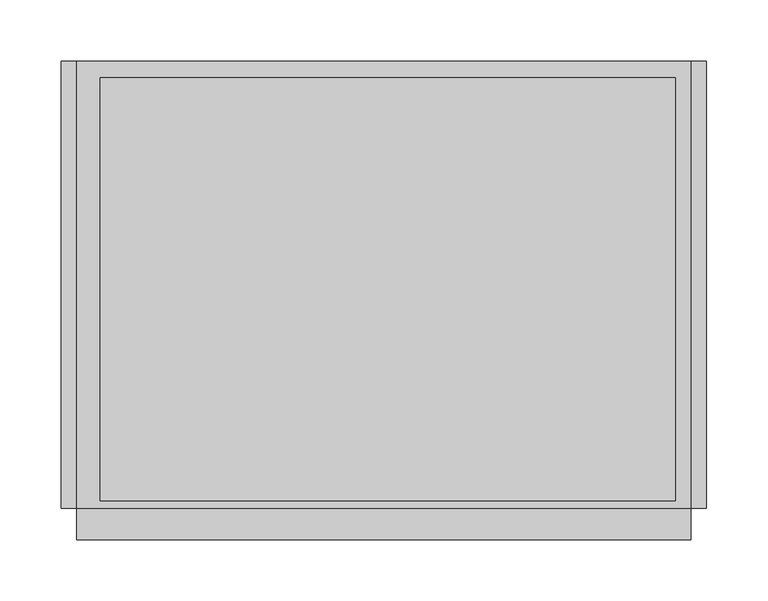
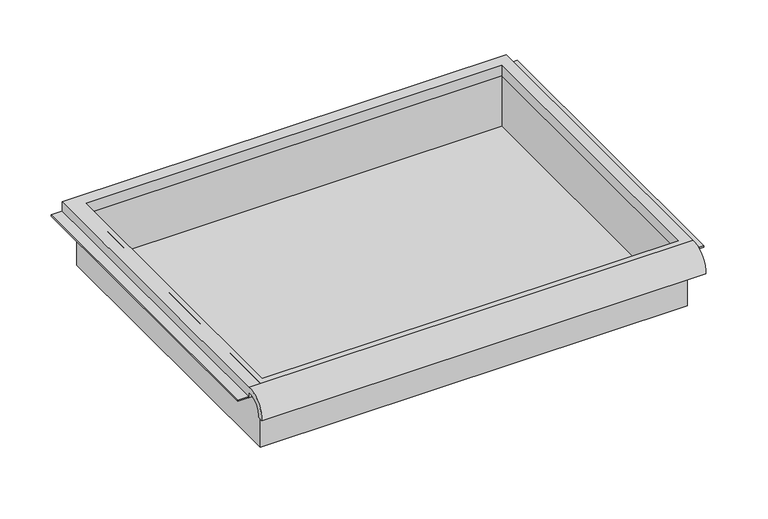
"""IFC4 building model written with IfcOpenShell, lengths in millimetres: furniture geometry."""

import ifcopenshell
import ifcopenshell.guid

model = None  # the IFC model being written
_history = None  # IfcOwnerHistory: only IFC2X3 demands one
_inside = {}  # id of a spatial element -> (the spatial element, [elements in it])
_under = {}  # id of a project, library or spatial element -> (it, [spatial elements below it])
_declared = {}  # id of a project -> (the project, [libraries it declares])
_typed = {}  # id of a type object -> (the type object, [elements of that type])
_made_of = {}  # id of a material, layer set ... -> (it, [elements and type objects made of it])


def new_model(schema):
    """Start an empty IFC model of exactly this schema.

    Asked for "IFC4X3", IfcOpenShell would pick the latest addendum, in which some entities
    have other attributes; the version numbers below select the first issue.
    IFC2X3 requires an IfcOwnerHistory on every rooted entity: one is made here for all.
    """
    global model, _history
    if schema == "IFC4X3":
        model = ifcopenshell.file(schema_version=(4, 3, 0, 0))
    else:
        model = ifcopenshell.file(schema=schema)
    _inside.clear()
    _under.clear()
    _declared.clear()
    _typed.clear()
    _made_of.clear()
    _history = None
    if model.schema == "IFC2X3":
        org = make("IfcOrganization", Name="unknown")
        user = make(
            "IfcPersonAndOrganization",
            ThePerson=make("IfcPerson", FamilyName="unknown"),
            TheOrganization=org,
        )
        app = make(
            "IfcApplication",
            ApplicationDeveloper=org,
            Version="unknown",
            ApplicationFullName="unknown",
            ApplicationIdentifier="unknown",
        )
        _history = make(
            "IfcOwnerHistory",
            OwningUser=user,
            OwningApplication=app,
            ChangeAction="ADDED",
            CreationDate=0,
        )
    return model


def make(cls, **values):
    """One entity of the class cls with the attributes given. An attribute that is None is left unset."""
    return model.create_entity(
        cls, **{name: value for name, value in values.items() if value is not None}
    )


def rooted(cls, **values):
    """An entity with a GlobalId (a new one), such as an element, a storey or a relation."""
    return make(cls, GlobalId=ifcopenshell.guid.new(), OwnerHistory=_history, **values)


def si_unit(unit_type, name, prefix=None):
    """IfcSIUnit, for example si_unit("LENGTHUNIT", "METRE", prefix="MILLI")."""
    return make("IfcSIUnit", UnitType=unit_type, Prefix=prefix, Name=name)


def assignment(units):
    """IfcUnitAssignment: the units of a project."""
    return None if units is None else make("IfcUnitAssignment", Units=units)


def point(xyz):
    """IfcCartesianPoint."""
    return None if xyz is None else make("IfcCartesianPoint", Coordinates=xyz)


def direction(xyz):
    """IfcDirection."""
    return None if xyz is None else make("IfcDirection", DirectionRatios=xyz)


def frame(location, z_axis=None, x_axis=None):
    """IfcAxis2Placement3D, a coordinate frame: its origin and axes. An axis left out is left unset."""
    return make(
        "IfcAxis2Placement3D",
        Location=point(location),
        Axis=direction(z_axis),
        RefDirection=direction(x_axis),
    )


def origin():
    """The frame at (0, 0, 0) with its axes left unset."""
    return frame((0.0, 0.0, 0.0))


def place(relative_to, where):
    """IfcLocalPlacement: puts the frame where relative to a parent placement (None: the world)."""
    return make(
        "IfcLocalPlacement", PlacementRelTo=relative_to, RelativePlacement=where
    )


def context(
    kind, dimensions, precision=None, world=None, true_north=None, identifier=None
):
    """IfcGeometricRepresentationContext, for example the 3D "Model" context."""
    return make(
        "IfcGeometricRepresentationContext",
        ContextIdentifier=identifier,
        ContextType=kind,
        CoordinateSpaceDimension=dimensions,
        Precision=precision,
        WorldCoordinateSystem=world,
        TrueNorth=true_north,
    )


def project(units=None, contexts=None):
    """IfcProject with its units and contexts."""
    return rooted(
        "IfcProject",
        Name="project",
        RepresentationContexts=contexts,
        UnitsInContext=assignment(units),
    )


def spatial(cls, under=None, at=None, **own):
    """A site, building, storey or space (cls), placed at a placement, below another one or the project."""
    s = rooted(cls, ObjectPlacement=at, **own)
    if under is not None:
        _under.setdefault(under.id(), (under, []))[1].append(s)
    return s


def polyline(points):
    """IfcPolyline through the points."""
    return make("IfcPolyline", Points=[point(p) for p in points])


def circle_curve(where, radius):
    """IfcCircle in the frame where."""
    return make("IfcCircle", Position=where, Radius=radius)


def faces_of(points, faces, orient=None, outer=None):
    """IfcFace entities. A face is a list of loops; a loop is a list of indices into points, from 0.

    orient and outer hold one flag for each loop. By default every Orientation is true, the
    first loop of a face is its IfcFaceOuterBound and the others are IfcFaceBound.
    """
    made = []
    for i, loops in enumerate(faces):
        bounds = []
        for j, loop in enumerate(loops):
            is_outer = j == 0 if outer is None else outer[i][j]
            bounds.append(
                make(
                    "IfcFaceOuterBound" if is_outer else "IfcFaceBound",
                    Bound=make("IfcPolyLoop", Polygon=[points[k] for k in loop]),
                    Orientation=True if orient is None else orient[i][j],
                )
            )
        made.append(make("IfcFace", Bounds=bounds))
    return made


def faceted_brep(points, faces, orient=None, outer=None, voids=None):
    """IfcFacetedBrep: a solid bounded by flat faces; with voids (closed shells), ...WithVoids."""
    shared = [point(p) for p in points]
    hull = make("IfcClosedShell", CfsFaces=faces_of(shared, faces, orient, outer))
    if voids is None:
        return make("IfcFacetedBrep", Outer=hull)
    return make(
        "IfcFacetedBrepWithVoids",
        Outer=hull,
        Voids=[
            make(cls, CfsFaces=faces_of(shared, fs, o, b)) for cls, fs, o, b in voids
        ],
    )


def shape(context_of_items, identifier, shape_type, items):
    """IfcShapeRepresentation: the items that make up one representation, for example the "Body"."""
    return make(
        "IfcShapeRepresentation",
        ContextOfItems=context_of_items,
        RepresentationIdentifier=identifier,
        RepresentationType=shape_type,
        Items=items,
    )


def source(mapping_origin, context_of_items, identifier, shape_type, items):
    """IfcRepresentationMap: a shape defined once, which mapped items show again and again."""
    return make(
        "IfcRepresentationMap",
        MappingOrigin=mapping_origin,
        MappedRepresentation=shape(context_of_items, identifier, shape_type, items),
    )


def transform(
    local_origin,
    x_axis=None,
    y_axis=None,
    z_axis=None,
    scale=None,
    scale2=None,
    scale3=None,
    uniform=True,
):
    """IfcCartesianTransformationOperator3D, or its non-uniform kind. x_axis, y_axis, z_axis: its Axis1, 2, 3."""
    if uniform:
        return make(
            "IfcCartesianTransformationOperator3D",
            Axis1=direction(x_axis),
            Axis2=direction(y_axis),
            LocalOrigin=point(local_origin),
            Scale=scale,
            Axis3=direction(z_axis),
        )
    return make(
        "IfcCartesianTransformationOperator3DnonUniform",
        Axis1=direction(x_axis),
        Axis2=direction(y_axis),
        LocalOrigin=point(local_origin),
        Scale=scale,
        Axis3=direction(z_axis),
        Scale2=scale2,
        Scale3=scale3,
    )


def mapped(mapping_source, mapping_target):
    """IfcMappedItem: shows the shape of a source again, moved by a transform."""
    return make(
        "IfcMappedItem", MappingSource=mapping_source, MappingTarget=mapping_target
    )


def made_of(thing, what):
    """Note that an element or type object is made of a material, layer set ...; save() writes the relation."""
    if what is not None:
        _made_of.setdefault(what.id(), (what, []))[1].append(thing)
    return thing


def element(
    cls,
    number,
    at=None,
    inside=None,
    cuts=None,
    type_object=None,
    material=None,
    context=None,
    identifier="Body",
    shape_type=None,
    held_by="IfcProductDefinitionShape",
    body=None,
    shapes=None,
    **own,
):
    """One element of the class cls, such as IfcWall. Its Tag is "e" and its number.

    at: its placement. inside: the storey or other place that contains it. cuts: it is an
    opening in that element (IfcRelVoidsElement). A single representation is given by context,
    identifier, shape_type and body (its items); several are given by shapes. held_by: the class
    of the entity that holds the representations. save() writes the other relations.
    """
    e = rooted(cls, Tag="e%d" % number, ObjectPlacement=at, **own)
    if body is not None:
        shapes = [shape(context, identifier, shape_type, body)]
    if shapes is not None:
        e.Representation = make(held_by, Representations=shapes)
    if inside is not None:
        _inside.setdefault(inside.id(), (inside, []))[1].append(e)
    if cuts is not None:
        rooted(
            "IfcRelVoidsElement", RelatingBuildingElement=cuts, RelatedOpeningElement=e
        )
    if type_object is not None:
        _typed.setdefault(type_object.id(), (type_object, []))[1].append(e)
    return made_of(e, material)


def aggregate(whole, parts):
    """IfcRelAggregates: a whole, such as a stair, and the parts it consists of."""
    return rooted("IfcRelAggregates", RelatingObject=whole, RelatedObjects=parts)


def save(model, path):
    """Write the relations noted so far, then the file.

    IfcRelAggregates (storeys below a building ...), IfcRelContainedInSpatialStructure (elements
    in a storey), IfcRelDefinesByType, IfcRelAssociatesMaterial and IfcRelDeclares: one each for
    every whole, place, type object, material and project.
    """
    for whole, parts in _under.values():
        aggregate(whole, parts)
    for where, things in _inside.values():
        rooted(
            "IfcRelContainedInSpatialStructure",
            RelatedElements=things,
            RelatingStructure=where,
        )
    for kind, things in _typed.values():
        rooted("IfcRelDefinesByType", RelatedObjects=things, RelatingType=kind)
    for what, things in _made_of.values():
        rooted("IfcRelAssociatesMaterial", RelatedObjects=things, RelatingMaterial=what)
    for by, libraries in _declared.values():
        rooted("IfcRelDeclares", RelatingContext=by, RelatedDefinitions=libraries)
    model.write(path)


def plane_surface(at):
    """IfcPlane: the flat surface through the origin of the frame at, square to its z axis."""
    return make("IfcPlane", Position=at)


def cylinder_surface(at, radius):
    """IfcCylindricalSurface: all points at the distance radius from the z axis of the frame at."""
    return make("IfcCylindricalSurface", Position=at, Radius=radius)


def revolved_surface(curve, axis_point, axis_direction):
    """IfcSurfaceOfRevolution: the curve turned about the line through axis_point along axis_direction."""
    return make(
        "IfcSurfaceOfRevolution",
        SweptCurve=make("IfcArbitraryOpenProfileDef", ProfileType="CURVE", Curve=curve),
        AxisPosition=make("IfcAxis1Placement", Location=point(axis_point), Axis=direction(axis_direction)),
    )


def advanced_brep(points, edges, surfaces, faces):
    """IfcAdvancedBrep: a solid bounded by faces that lie on surfaces and meet in shared edges.

    An edge is (start, end): straight between two places in points (the first is 0);
    or (start, end, curve); or (start, end, curve, False) where it runs against its curve.
    A face is (place in surfaces, loops), or (place, loops, False) where it looks against
    its surface's normal. A loop lists edges by number (the first is 1), with a minus sign
    where the edge is run from its end to its start. The first loop is the outer one.
    """
    corners = [point(p) for p in points]
    vertices = [make("IfcVertexPoint", VertexGeometry=c) for c in corners]
    made = []
    for start, end, *more in edges:
        made.append(
            make(
                "IfcEdgeCurve",
                EdgeStart=vertices[start],
                EdgeEnd=vertices[end],
                EdgeGeometry=more[0] if more else make("IfcPolyline", Points=[corners[start], corners[end]]),
                SameSense=more[1] if len(more) > 1 else True,
            )
        )
    hull = []
    for where, loops, *sense in faces:
        bounds = []
        for j, loop in enumerate(loops):
            ring = [make("IfcOrientedEdge", EdgeElement=made[abs(k) - 1], Orientation=k > 0) for k in loop]
            bounds.append(
                make(
                    "IfcFaceOuterBound" if j == 0 else "IfcFaceBound",
                    Bound=make("IfcEdgeLoop", EdgeList=ring),
                    Orientation=True,
                )
            )
        hull.append(make("IfcAdvancedFace", Bounds=bounds, FaceSurface=surfaces[where], SameSense=sense[0] if sense else True))
    return make("IfcAdvancedBrep", Outer=make("IfcClosedShell", CfsFaces=hull))


def furniture_09c434e6(model_context):
    return source(origin(), model_context, "Body", "SolidModel", [
        advanced_brep(
        [(263.7474999, -195.297482, 1770.8510272), (263.7474999, -188.9125, 1770.8510272), (263.7474999, -169.8625, 1789.1125004), (263.7474999, -169.8625, 1782.7625), (263.7474999, 195.2625, 1782.7625), (263.7474999, 195.2625, 1795.4625004), (263.7474999, -169.8625, 1795.4625004), (-237.9025001, -195.297482, 1770.8510272), (-237.9025001, -169.8625, 1795.4625004), (-237.9025001, 195.2625, 1795.4625004), (-237.9025001, 195.2625, 1782.7625), (-237.9025001, -169.8625, 1782.7625), (-237.9025001, -169.8625, 1789.1125004), (-237.9025001, -188.9125, 1770.8510272), (251.0474878, 181.9275, 1782.7625), (-218.8095642, 181.9275, 1782.7625), (-218.8095642, -163.5125, 1782.7625), (251.0474878, -163.5125, 1782.7625), (-218.8095642, 181.9275, 1795.4625004), (251.0474878, 181.9275, 1795.4625004), (251.0474878, -163.5125, 1795.4625004), (-218.8095642, -163.5125, 1795.4625004)],
        [
            (0, 1),
            (1, 2, circle_curve(frame((263.7474999, -172.3404634, 1772.6304376), z_axis=(-1.0, 0.0, 0.0), x_axis=(0.0, 1.0, 0.0)), 16.6672942)),
            (2, 3),
            (3, 4),
            (4, 5),
            (5, 6),
            (6, 0, circle_curve(frame((263.7474999, -172.4601678, 1772.6983276), z_axis=(1.0, 0.0, 0.0), x_axis=(0.0, 1.0, 0.0)), 22.9119061)),
            (7, 8, circle_curve(frame((-237.9025001, -172.4601678, 1772.6983276), z_axis=(-1.0, 0.0, 0.0), x_axis=(0.0, 1.0, 0.0)), 22.9119061)),
            (8, 9),
            (9, 10),
            (10, 11),
            (11, 12),
            (12, 13, circle_curve(frame((-237.9025001, -172.3404634, 1772.6304376), z_axis=(1.0, 0.0, 0.0), x_axis=(0.0, 1.0, 0.0)), 16.6672942)),
            (13, 7),
            (0, 7),
            (13, 1),
            (12, 2),
            (11, 3),
            (10, 4),
            (14, 15),
            (15, 16),
            (16, 17),
            (17, 14),
            (9, 5),
            (8, 6),
            (18, 19),
            (19, 20),
            (20, 21),
            (21, 18),
            (14, 19),
            (18, 15),
            (21, 16),
            (20, 17),
        ],
        [
            plane_surface(frame((263.7474999, -195.297482, 1770.8510272), z_axis=(1.0, 0.0, 0.0), x_axis=(0.0, 1.0, 0.0))),
            plane_surface(frame((-237.9025001, -195.297482, 1770.8510272), z_axis=(-1.0, 0.0, 0.0), x_axis=(0.0, -1.0, 0.0))),
            plane_surface(frame((263.7474999, -195.297482, 1770.8510272), z_axis=(0.0, 0.0, -1.0), x_axis=(-1.0, 0.0, 0.0))),
            revolved_surface(polyline([(-237.9025001, -155.67316920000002, 1772.6304376), (263.7474999, -155.67316920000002, 1772.6304376)]), (-237.9025001, -172.3404634, 1772.6304376), (-1.0, 0.0, 0.0)),
            plane_surface(frame((263.7474999, -169.8625, 1789.1125004), z_axis=(0.0, -1.0, 0.0), x_axis=(-1.0, 0.0, 0.0))),
            plane_surface(frame((263.7474999, -169.8625, 1782.7625), z_axis=(0.0, 0.0, -1.0), x_axis=(-1.0, 0.0, 0.0))),
            plane_surface(frame((263.7474999, 195.2625, 1782.7625), z_axis=(0.0, 1.0, 0.0), x_axis=(-1.0, 0.0, 0.0))),
            plane_surface(frame((263.7474999, 195.2625, 1795.4625004), z_axis=(0.0, 0.0, 1.0), x_axis=(-1.0, 0.0, 0.0))),
            cylinder_surface(frame((-237.9025001, -172.4601678, 1772.6983276), z_axis=(1.0, 0.0, 0.0), x_axis=(0.0, 1.0, 0.0)), 22.9119061),
            plane_surface(frame((251.0474878, 181.9275, 1795.4625004), z_axis=(0.0, -1.0, 0.0), x_axis=(0.0, 0.0, -1.0))),
            plane_surface(frame((-218.8095642, 181.9275, 1795.4625004), z_axis=(1.0, 0.0, 0.0), x_axis=(0.0, 0.0, -1.0))),
            plane_surface(frame((-218.8095642, -163.5125, 1795.4625004), z_axis=(0.0, 1.0, 0.0), x_axis=(0.0, 0.0, -1.0))),
            plane_surface(frame((251.0474878, -163.5125, 1795.4625004), z_axis=(-1.0, 0.0, 0.0), x_axis=(0.0, 0.0, -1.0))),
        ],
        [
            (0, [[1, 2, 3, 4, 5, 6, 7]]),
            (1, [[8, 9, 10, 11, 12, 13, 14]]),
            (2, [[-1, 15, -14, 16]]),
            (3, [[-2, -16, -13, 17]]),
            (4, [[-3, -17, -12, 18]]),
            (5, [[-4, -18, -11, 19], [20, 21, 22, 23]]),
            (6, [[-5, -19, -10, 24]]),
            (7, [[-6, -24, -9, 25], [26, 27, 28, 29]]),
            (8, [[-7, -25, -8, -15]]),
            (9, [[30, -26, 31, -20]]),
            (10, [[-31, -29, 32, -21]]),
            (11, [[-32, -28, 33, -22]]),
            (12, [[-30, -23, -33, -27]]),
        ],
    ),
        faceted_brep([(-225.2025001, -169.8625, 1719.2625004), (257.3974878, -169.8625, 1719.2625004), (257.3974878, -169.8625, 1795.4625004), (-225.2025001, -169.8625, 1795.4625004), (-225.2025001, 188.9125, 1719.2625004), (-225.2025001, 188.9125, 1795.4625004), (257.3974878, 188.9125, 1795.4625004), (257.3974878, 188.9125, 1719.2625004), (-218.8095642, 181.9275, 1795.4625004), (251.0474878, 181.9275, 1795.4625004), (251.0474878, -163.5125, 1795.4625004), (-218.8095642, -163.5125, 1795.4625004), (251.0474878, 181.9275, 1722.4375004), (-218.8095642, 181.9275, 1722.4375004), (-218.8095642, -163.5125, 1722.4375004), (251.0474878, -163.5125, 1722.4375004)], [[[0, 1, 2, 3]], [[4, 5, 6, 7]], [[1, 0, 4, 7]], [[2, 1, 7, 6]], [[3, 2, 6, 5], [8, 9, 10, 11]], [[0, 3, 5, 4]], [[12, 13, 14, 15]], [[13, 12, 9, 8]], [[14, 13, 8, 11]], [[15, 14, 11, 10]], [[12, 15, 10, 9]]]),
        faceted_brep([(-250.6025001, 195.2625, 1782.7625), (-250.6025001, 195.2625, 1784.35), (-231.5525001, 195.2625, 1784.35), (-231.5525001, 195.2625, 1782.7625), (-250.6025001, -169.8625, 1782.7625), (-231.5525001, -169.8625, 1782.7625), (-231.5525001, -169.8625, 1784.35), (-250.6025001, -169.8625, 1784.35)], [[[0, 1, 2, 3]], [[4, 5, 6, 7]], [[1, 0, 4, 7]], [[2, 1, 7, 6]], [[3, 2, 6, 5]], [[0, 3, 5, 4]]]),
        faceted_brep([(276.4474999, 195.2625, 1782.7625), (263.7474999, 195.2625, 1782.7625), (263.7474999, 195.2625, 1784.35), (276.4474999, 195.2625, 1784.35), (276.4474999, -169.8625, 1782.7625), (276.4474999, -169.8625, 1784.35), (263.7474999, -169.8625, 1784.35), (263.7474999, -169.8625, 1782.7625)], [[[0, 1, 2, 3]], [[4, 5, 6, 7]], [[1, 0, 4, 7]], [[2, 1, 7, 6]], [[3, 2, 6, 5]], [[0, 3, 5, 4]]]),
    ])


if __name__ == "__main__":
    model = new_model("IFC4")
    model_context = context("Model", 3, world=origin())
    ifc_project = project(units=[si_unit("LENGTHUNIT", "METRE", prefix="MILLI")], contexts=[model_context])
    site = spatial("IfcSite", under=ifc_project)
    building = spatial("IfcBuilding", under=site)
    placement = place(None, origin())
    furniture_shape = furniture_09c434e6(model_context)
    element("IfcFurniture", 1, ObjectType="HermanMiller_Carts_CT501_Drawer : 3\"H x 15\"D x 20\"W", at=placement, inside=building, context=model_context, shape_type="MappedRepresentation", body=[
        mapped(furniture_shape, transform((0.0, 0.0, 0.0), x_axis=(1.0, 0.0, 0.0), y_axis=(0.0, 1.0, 0.0), z_axis=(0.0, 0.0, 1.0))),
    ])
    save(model, "model.ifc")
